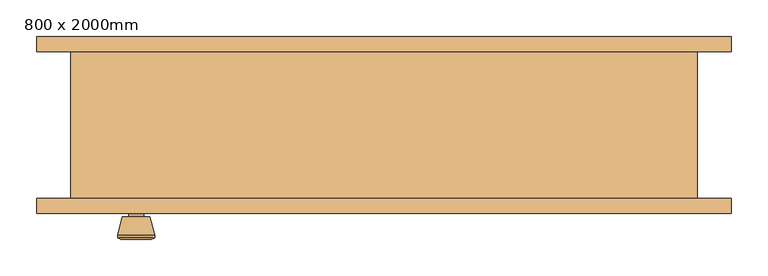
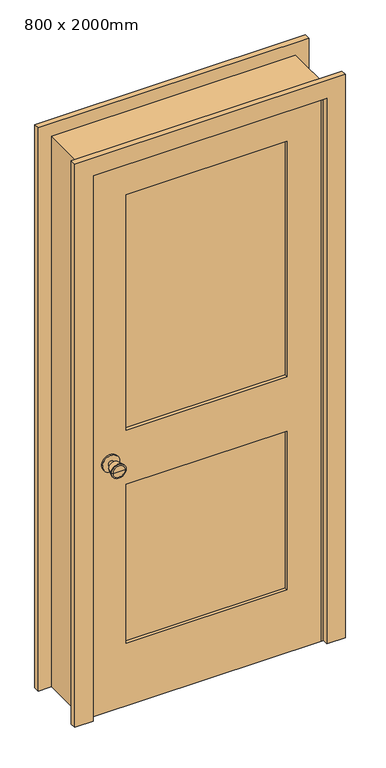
"""IFC4 building model written with IfcOpenShell, lengths in millimetres: door geometry, M_Dveře, vnitřní, jednokřídlé, dvě části, panel, dřevo : 800 x 2000mm."""

from ifc_helpers import new_model, si_unit, point, frame, frame_2d, origin, place, context, project, spatial, polyline, circle_curve, trimmed, segment, composite_curve, outline, extrude, faceted_brep, source, transform, mapped, element, save
from ifc_brep_helpers import plane_surface, cylinder_surface, revolved_surface, advanced_brep


def door_800_x_2000mm_7f741745(model_context):
    return source(origin(), model_context, "Body", "SolidModel", [
        advanced_brep(
        [(-336.5, -55.825, 914.4), (-346.5, -55.825, 914.4), (-326.5, -55.825, 914.4), (-316.0241324, -6.825, 914.4), (-356.9758676, -6.825, 914.4), (-336.5, -6.825, 914.4), (-311.5, -8.6528681, 914.4), (-361.5, -8.6528681, 914.4), (-311.5, -12.1165463, 914.4), (-361.5, -12.1165463, 914.4), (-317.863764, -36.825, 914.4), (-355.136236, -36.825, 914.4), (-326.5, -36.825, 914.4), (-346.5, -36.825, 914.4)],
        [
            (0, 1),
            (1, 2, circle_curve(frame((-336.5, -55.825, 914.4), z_axis=(0.0, -1.0, 0.0), x_axis=(-1.0, 0.0, 0.0)), 10.0)),
            (2, 0),
            (2, 1, circle_curve(frame((-336.5, -55.825, 914.4), z_axis=(0.0, -1.0, 0.0), x_axis=(-1.0, 0.0, 0.0)), 10.0)),
            (3, 4, circle_curve(frame((-336.5, -6.825, 914.4), z_axis=(0.0, 1.0, 0.0), x_axis=(-1.0, 0.0, 0.0)), 20.4758676)),
            (4, 5),
            (5, 3),
            (4, 3, circle_curve(frame((-336.5, -6.825, 914.4), z_axis=(0.0, 1.0, 0.0), x_axis=(-1.0, 0.0, 0.0)), 20.4758676)),
            (6, 7, circle_curve(frame((-336.5, -8.6528681, 914.4), z_axis=(0.0, 1.0, 0.0), x_axis=(-1.0, 0.0, 0.0)), 25.0)),
            (7, 4),
            (3, 6),
            (7, 6, circle_curve(frame((-336.5, -8.6528681, 914.4), z_axis=(0.0, 1.0, 0.0), x_axis=(-1.0, 0.0, 0.0)), 25.0)),
            (8, 9, circle_curve(frame((-336.5, -12.1165463, 914.4), z_axis=(0.0, 1.0, 0.0), x_axis=(-1.0, 0.0, 0.0)), 25.0)),
            (9, 7),
            (6, 8),
            (9, 8, circle_curve(frame((-336.5, -12.1165463, 914.4), z_axis=(0.0, 1.0, 0.0), x_axis=(-1.0, 0.0, 0.0)), 25.0)),
            (10, 11, circle_curve(frame((-336.5, -36.825, 914.4), z_axis=(0.0, 1.0, 0.0), x_axis=(-1.0, 0.0, 0.0)), 18.636236)),
            (11, 9),
            (8, 10),
            (11, 10, circle_curve(frame((-336.5, -36.825, 914.4), z_axis=(0.0, 1.0, 0.0), x_axis=(-1.0, 0.0, 0.0)), 18.636236)),
            (12, 13, circle_curve(frame((-336.5, -36.825, 914.4), z_axis=(0.0, 1.0, 0.0), x_axis=(-1.0, 0.0, 0.0)), 10.0)),
            (13, 11),
            (10, 12),
            (13, 12, circle_curve(frame((-336.5, -36.825, 914.4), z_axis=(0.0, 1.0, 0.0), x_axis=(-1.0, 0.0, 0.0)), 10.0)),
            (1, 13),
            (12, 2),
        ],
        [
            plane_surface(frame((-336.5, -55.825, 914.4), z_axis=(0.0, -1.0, 0.0), x_axis=(-1.0, 0.0, 0.0))),
            plane_surface(frame((-336.5, -6.825, 914.4), z_axis=(0.0, 1.0, 0.0), x_axis=(-1.0, 0.0, 0.0))),
            revolved_surface(polyline([(-356.9758676, -6.825, 914.4), (-361.5, -8.6528681, 914.4)]), (-336.5, -55.825, 914.4), (0.0, -1.0, 0.0)),
            cylinder_surface(frame((-336.5, -55.825, 914.4), z_axis=(0.0, -1.0, 0.0), x_axis=(-1.0, 0.0, 0.0)), 25.0),
            revolved_surface(polyline([(-361.5, -12.1165463, 914.4), (-355.136236, -36.825, 914.4)]), (-336.5, -55.825, 914.4), (0.0, -1.0, 0.0)),
            plane_surface(frame((-336.5, -36.825, 914.4), z_axis=(0.0, -1.0, 0.0), x_axis=(-1.0, 0.0, 0.0))),
            cylinder_surface(frame((-336.5, -55.825, 914.4), z_axis=(0.0, -1.0, 0.0), x_axis=(-1.0, 0.0, 0.0)), 10.0),
        ],
        [
            (0, [[1, 2, 3]]),
            (0, [[-3, 4, -1]]),
            (1, [[5, 6, 7]]),
            (1, [[8, -7, -6]]),
            (2, [[9, 10, -5, 11]]),
            (2, [[12, -11, -8, -10]]),
            (3, [[13, 14, -9, 15]]),
            (3, [[16, -15, -12, -14]]),
            (4, [[17, 18, -13, 19]]),
            (4, [[20, -19, -16, -18]]),
            (5, [[21, 22, -17, 23]]),
            (5, [[24, -23, -20, -22]]),
            (6, [[-2, 25, -21, 26]]),
            (6, [[-4, -26, -24, -25]]),
        ],
    ),
        extrude(outline(composite_curve([segment(trimmed(circle_curve(frame_2d((914.4, -336.5)), 30.0), [point((914.4, -366.5))], [point((914.4, -306.5))], False, "CARTESIAN"), True, "CONTINUOUS"), segment(trimmed(circle_curve(frame_2d((914.4, -336.5)), 30.0), [point((914.4, -306.5))], [point((914.4, -366.5))], False, "CARTESIAN"), True, "CONTINUOUS")], self_intersect=False)), frame((0.0, -61.825, 0.0), z_axis=(0.0, 1.0, 0.0), x_axis=(0.0, 0.0, 1.0)), (0.0, 0.0, 1.0), 6.0),
        advanced_brep(
        [(-336.5, -102.825, 914.4), (-326.5, -102.825, 914.4), (-346.5, -102.825, 914.4), (-316.0241324, -151.825, 914.4), (-336.5, -151.825, 914.4), (-356.9758676, -151.825, 914.4), (-311.5, -149.9971319, 914.4), (-361.5, -149.9971319, 914.4), (-311.5, -146.5334537, 914.4), (-361.5, -146.5334537, 914.4), (-317.863764, -121.825, 914.4), (-355.136236, -121.825, 914.4), (-326.5, -121.825, 914.4), (-346.5, -121.825, 914.4)],
        [
            (0, 1),
            (1, 2, circle_curve(frame((-336.5, -102.825, 914.4), z_axis=(0.0, 1.0, 0.0), x_axis=(-1.0, 0.0, 0.0)), 10.0)),
            (2, 0),
            (2, 1, circle_curve(frame((-336.5, -102.825, 914.4), z_axis=(0.0, 1.0, 0.0), x_axis=(-1.0, 0.0, 0.0)), 10.0)),
            (3, 4),
            (4, 5),
            (5, 3, circle_curve(frame((-336.5, -151.825, 914.4), z_axis=(0.0, -1.0, 0.0), x_axis=(-1.0, 0.0, 0.0)), 20.4758676)),
            (3, 5, circle_curve(frame((-336.5, -151.825, 914.4), z_axis=(0.0, -1.0, 0.0), x_axis=(-1.0, 0.0, 0.0)), 20.4758676)),
            (6, 3),
            (5, 7),
            (7, 6, circle_curve(frame((-336.5, -149.9971319, 914.4), z_axis=(0.0, -1.0, 0.0), x_axis=(-1.0, 0.0, 0.0)), 25.0)),
            (6, 7, circle_curve(frame((-336.5, -149.9971319, 914.4), z_axis=(0.0, -1.0, 0.0), x_axis=(-1.0, 0.0, 0.0)), 25.0)),
            (8, 6),
            (7, 9),
            (9, 8, circle_curve(frame((-336.5, -146.5334537, 914.4), z_axis=(0.0, -1.0, 0.0), x_axis=(-1.0, 0.0, 0.0)), 25.0)),
            (8, 9, circle_curve(frame((-336.5, -146.5334537, 914.4), z_axis=(0.0, -1.0, 0.0), x_axis=(-1.0, 0.0, 0.0)), 25.0)),
            (10, 8),
            (9, 11),
            (11, 10, circle_curve(frame((-336.5, -121.825, 914.4), z_axis=(0.0, -1.0, 0.0), x_axis=(-1.0, 0.0, 0.0)), 18.636236)),
            (10, 11, circle_curve(frame((-336.5, -121.825, 914.4), z_axis=(0.0, -1.0, 0.0), x_axis=(-1.0, 0.0, 0.0)), 18.636236)),
            (12, 10),
            (11, 13),
            (13, 12, circle_curve(frame((-336.5, -121.825, 914.4), z_axis=(0.0, -1.0, 0.0), x_axis=(-1.0, 0.0, 0.0)), 10.0)),
            (12, 13, circle_curve(frame((-336.5, -121.825, 914.4), z_axis=(0.0, -1.0, 0.0), x_axis=(-1.0, 0.0, 0.0)), 10.0)),
            (1, 12),
            (13, 2),
        ],
        [
            plane_surface(frame((-336.5, -102.825, 914.4), z_axis=(0.0, 1.0, 0.0), x_axis=(-1.0, 0.0, 0.0))),
            plane_surface(frame((-336.5, -151.825, 914.4), z_axis=(0.0, -1.0, 0.0), x_axis=(-1.0, 0.0, 0.0))),
            revolved_surface(polyline([(-356.9758676, -151.825, 914.4), (-361.5, -149.9971319, 914.4)]), (-336.5, -102.825, 914.4), (0.0, 1.0, 0.0)),
            cylinder_surface(frame((-336.5, -102.825, 914.4), z_axis=(0.0, 1.0, 0.0), x_axis=(-1.0, 0.0, 0.0)), 25.0),
            revolved_surface(polyline([(-361.5, -146.5334537, 914.4), (-355.136236, -121.825, 914.4)]), (-336.5, -102.825, 914.4), (0.0, 1.0, 0.0)),
            plane_surface(frame((-336.5, -121.825, 914.4), z_axis=(0.0, 1.0, 0.0), x_axis=(-1.0, 0.0, 0.0))),
            cylinder_surface(frame((-336.5, -102.825, 914.4), z_axis=(0.0, 1.0, 0.0), x_axis=(-1.0, 0.0, 0.0)), 10.0),
        ],
        [
            (0, [[1, 2, 3]]),
            (0, [[-3, 4, -1]]),
            (1, [[5, 6, 7]]),
            (1, [[-6, -5, 8]]),
            (2, [[9, -7, 10, 11]]),
            (2, [[-10, -8, -9, 12]]),
            (3, [[13, -11, 14, 15]]),
            (3, [[-14, -12, -13, 16]]),
            (4, [[17, -15, 18, 19]]),
            (4, [[-18, -16, -17, 20]]),
            (5, [[21, -19, 22, 23]]),
            (5, [[-22, -20, -21, 24]]),
            (6, [[25, -23, 26, -2]]),
            (6, [[-26, -24, -25, -4]]),
        ],
    ),
        extrude(outline(composite_curve([segment(trimmed(circle_curve(frame_2d((914.4, -336.5)), 30.0), [point((914.4, -366.5))], [point((914.4, -306.5))], False, "CARTESIAN"), True, "CONTINUOUS"), segment(trimmed(circle_curve(frame_2d((914.4, -336.5)), 30.0), [point((914.4, -306.5))], [point((914.4, -366.5))], False, "CARTESIAN"), True, "CONTINUOUS")], self_intersect=False)), frame((0.0, -102.825, 0.0), z_axis=(0.0, 1.0, 0.0), x_axis=(0.0, 0.0, 1.0)), (0.0, 0.0, 1.0), 6.0),
        faceted_brep([(425.0, -96.825, 0.0), (400.0, -96.825, 0.0), (400.0, -61.825, 0.0), (387.3, -61.825, 0.0), (387.3, -26.9, 0.0), (400.0, -26.9, 0.0), (400.0, 103.175, 0.0), (425.0, 103.175, 0.0), (425.0, 103.175, 2025.0), (425.0, -96.825, 2025.0), (400.0, 103.175, 2000.0), (-400.0, 103.175, 2000.0), (-400.0, 103.175, 0.0), (-425.0, 103.175, 0.0), (-425.0, 103.175, 2025.0), (400.0, -26.9, 2000.0), (387.3, -26.9, 1987.3), (-387.3, -26.9, 1987.3), (-387.3, -26.9, 0.0), (-400.0, -26.9, 0.0), (-400.0, -26.9, 2000.0), (387.3, -61.825, 1987.3), (400.0, -61.825, 2000.0), (-400.0, -61.825, 2000.0), (-400.0, -61.825, 0.0), (-387.3, -61.825, 0.0), (-387.3, -61.825, 1987.3), (400.0, -96.825, 2000.0), (-425.0, -96.825, 2025.0), (-425.0, -96.825, 0.0), (-400.0, -96.825, 0.0), (-400.0, -96.825, 2000.0)], [[[0, 1, 2, 3, 4, 5, 6, 7]], [[7, 8, 9, 0]], [[6, 10, 11, 12, 13, 14, 8, 7]], [[5, 15, 10, 6]], [[4, 16, 17, 18, 19, 20, 15, 5]], [[3, 21, 16, 4]], [[2, 22, 23, 24, 25, 26, 21, 3]], [[1, 27, 22, 2]], [[0, 9, 28, 29, 30, 31, 27, 1]], [[8, 14, 28, 9]], [[15, 20, 11, 10]], [[21, 26, 17, 16]], [[27, 31, 23, 22]], [[29, 13, 12, 19, 18, 25, 24, 30]], [[14, 13, 29, 28]], [[20, 19, 12, 11]], [[26, 25, 18, 17]], [[31, 30, 24, 23]]]),
        extrude(outline(polyline([(2000.0, -400.0), (0.0, -400.0), (0.0, 400.0), (2000.0, 400.0), (2000.0, -400.0)]), holes=[polyline([(1880.0, -280.0), (1880.0, 280.0), (1014.4, 280.0), (1014.4, -280.0), (1880.0, -280.0)]), polyline([(814.4, -280.0), (814.4, 280.0), (230.0, 280.0), (230.0, -280.0), (814.4, -280.0)])]), frame((0.0, -96.825, 0.0), z_axis=(0.0, 1.0, 0.0), x_axis=(0.0, 0.0, 1.0)), (0.0, 0.0, 1.0), 35.0),
        extrude(outline(polyline([(280.0, -73.4916667), (280.0, -85.1583333), (-280.0, -85.1583333), (-280.0, -73.4916667), (280.0, -73.4916667)])), frame((0.0, 0.0, 1014.4), z_axis=(0.0, 0.0, 1.0), x_axis=(1.0, 0.0, 0.0)), (0.0, 0.0, 1.0), 865.6),
        extrude(outline(polyline([(280.0, -73.4916667), (280.0, -85.1583333), (-280.0, -85.1583333), (-280.0, -73.4916667), (280.0, -73.4916667)])), frame((0.0, 0.0, 230.0), z_axis=(0.0, 0.0, 1.0), x_axis=(1.0, 0.0, 0.0)), (0.0, 0.0, 1.0), 584.4),
        extrude(outline(polyline([(0.0, 471.35), (2071.35, 471.35), (2071.35, -471.35), (0.0, -471.35), (0.0, -406.35), (2006.35, -406.35), (2006.35, 406.35), (0.0, 406.35), (0.0, 471.35)])), frame((0.0, -116.825, 0.0), z_axis=(0.0, 1.0, 0.0), x_axis=(0.0, 0.0, 1.0)), (0.0, 0.0, 1.0), 20.0),
        extrude(outline(polyline([(0.0, 471.35), (2071.35, 471.35), (2071.35, -471.35), (0.0, -471.35), (0.0, -406.35), (2006.35, -406.35), (2006.35, 406.35), (0.0, 406.35), (0.0, 471.35)])), frame((0.0, 103.175, 0.0), z_axis=(0.0, 1.0, 0.0), x_axis=(0.0, 0.0, 1.0)), (0.0, 0.0, 1.0), 20.0),
    ])


if __name__ == "__main__":
    model = new_model("IFC4")
    model_context = context("Model", 3, world=origin())
    ifc_project = project(units=[si_unit("LENGTHUNIT", "METRE", prefix="MILLI")], contexts=[model_context])
    site = spatial("IfcSite", under=ifc_project)
    building = spatial("IfcBuilding", under=site)
    placement = place(None, origin())
    door_800_x_2000mm_shape = door_800_x_2000mm_7f741745(model_context)
    element("IfcDoor", 1, ObjectType="M_Dveře, vnitřní, jednokřídlé, dvě části, panel, dřevo : 800 x 2000mm", at=placement, inside=building, context=model_context, shape_type="MappedRepresentation", body=[
        mapped(door_800_x_2000mm_shape, transform((0.0, 0.0, 0.0), x_axis=(1.0, 0.0, 0.0), y_axis=(0.0, 1.0, 0.0), z_axis=(0.0, 0.0, 1.0))),
    ])
    save(model, "model.ifc")
